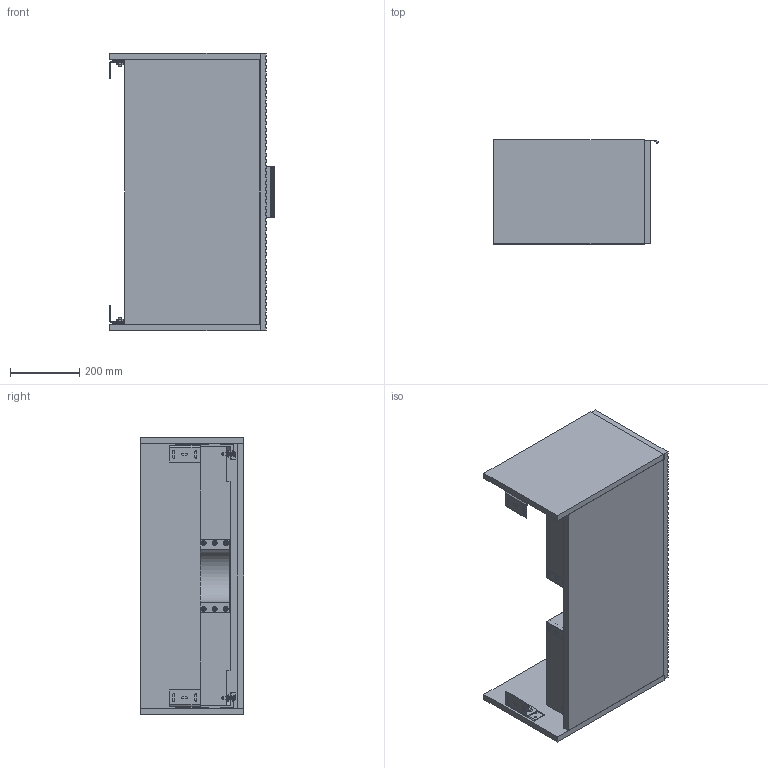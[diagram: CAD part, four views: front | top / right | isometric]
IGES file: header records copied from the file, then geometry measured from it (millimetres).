
Global section: file name: 3D Dosyası,; native system: Autodesk Inventor 2024; preprocessor: unknown; author: pc19; date: 20240629.085238; units: millimetre
Bounding box: 475.99 x 300 x 800 mm (x, y, z)
Volume: 18121678.8 mm3; surface area: 3012380.1 mm2
Topology: 24 solids, 24 shells, 873 faces, 2458 edges, 1669 vertices
Faces by surface type: bspline 873
